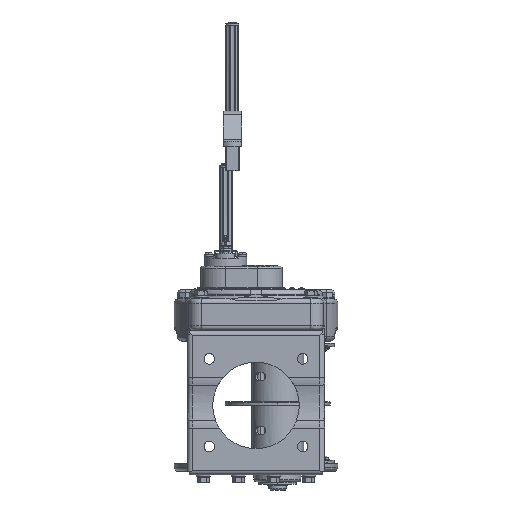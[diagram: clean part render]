
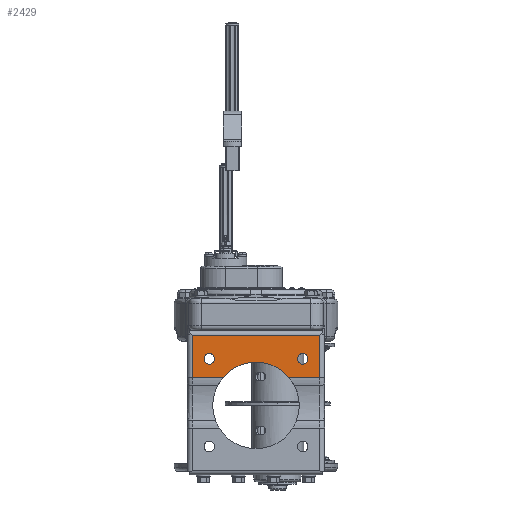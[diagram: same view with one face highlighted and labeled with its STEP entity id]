
A CAD part, front view. The second image highlights one B-rep face of the part: STEP entity #2429.
In plain terms, the highlighted planar face has unit normal (0, -1, 0).
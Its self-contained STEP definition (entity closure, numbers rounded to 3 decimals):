
#2429=ADVANCED_FACE('',(#26266,#26267,#26268),#26265,.F.);
#26265=PLANE('',#50822);
#26266=FACE_OUTER_BOUND('',#50823,.T.);
#26267=FACE_BOUND('',#50824,.T.);
#26268=FACE_BOUND('',#50825,.T.);
#50819=CARTESIAN_POINT('',(-127.722,-108.7,-182.168));
#50820=DIRECTION('',(0.,1.,0.));
#50821=DIRECTION('',(0.,0.,-1.));
#50822=AXIS2_PLACEMENT_3D('',#50819,#50820,#50821);
#50823=EDGE_LOOP('',(#70305,#70306,#70307,#70308,#70309,#70310,#70311));
#50824=EDGE_LOOP('',(#70312,#70313));
#50825=EDGE_LOOP('',(#70314,#70315));
#70305=ORIENTED_EDGE('',*,*,#81083,.T.);
#70306=ORIENTED_EDGE('',*,*,#81084,.T.);
#70307=ORIENTED_EDGE('',*,*,#81085,.T.);
#70308=ORIENTED_EDGE('',*,*,#81086,.T.);
#70309=ORIENTED_EDGE('',*,*,#78572,.T.);
#70310=ORIENTED_EDGE('',*,*,#81082,.F.);
#70311=ORIENTED_EDGE('',*,*,#78638,.F.);
#70312=ORIENTED_EDGE('',*,*,#81087,.T.);
#70313=ORIENTED_EDGE('',*,*,#81088,.T.);
#70314=ORIENTED_EDGE('',*,*,#81089,.T.);
#70315=ORIENTED_EDGE('',*,*,#81090,.T.);
#78572=EDGE_CURVE('',#110117,#110195,#110202,.T.);
#78638=EDGE_CURVE('',#110589,#110647,#110648,.T.);
#81082=EDGE_CURVE('',#110647,#110195,#126892,.T.);
#81083=EDGE_CURVE('',#110589,#126898,#126899,.T.);
#81084=EDGE_CURVE('',#126898,#126905,#126906,.T.);
#81085=EDGE_CURVE('',#126905,#126912,#126913,.T.);
#81086=EDGE_CURVE('',#126912,#110117,#126919,.T.);
#81087=EDGE_CURVE('',#126925,#126926,#126927,.T.);
#81088=EDGE_CURVE('',#126926,#126925,#126933,.T.);
#81089=EDGE_CURVE('',#126939,#126940,#126941,.T.);
#81090=EDGE_CURVE('',#126940,#126939,#126947,.T.);
#110117=VERTEX_POINT('',#154467);
#110195=VERTEX_POINT('',#154514);
#110202=LINE('',#154518,#154519);
#110589=VERTEX_POINT('',#154765);
#110647=VERTEX_POINT('',#154801);
#110648=LINE('',#154802,#154803);
#126892=LINE('',#165681,#165682);
#126898=VERTEX_POINT('',#165684);
#126899=LINE('',#165685,#165686);
#126905=VERTEX_POINT('',#165688);
#126906=CIRCLE('',#165692,74.);
#126912=VERTEX_POINT('',#165693);
#126913=CIRCLE('',#165697,74.);
#126919=LINE('',#165698,#165699);
#126925=VERTEX_POINT('',#165701);
#126926=VERTEX_POINT('',#165702);
#126927=CIRCLE('',#165706,9.);
#126933=CIRCLE('',#165710,9.);
#126939=VERTEX_POINT('',#165711);
#126940=VERTEX_POINT('',#165712);
#126941=CIRCLE('',#165716,9.);
#126947=CIRCLE('',#165720,9.);
#154467=CARTESIAN_POINT('',(-137.722,-108.7,-261.321));
#154514=CARTESIAN_POINT('',(-137.722,-108.7,-189.364));
#154518=CARTESIAN_POINT('',(-137.722,-108.7,-261.321));
#154519=VECTOR('',#154520,71.957);
#154520=DIRECTION('',(0.,0.,1.));
#154765=CARTESIAN_POINT('',(-356.722,-108.7,-261.321));
#154801=CARTESIAN_POINT('',(-356.722,-108.7,-189.364));
#154802=CARTESIAN_POINT('',(-356.722,-108.7,-261.321));
#154803=VECTOR('',#154804,71.957);
#154804=DIRECTION('',(0.,0.,1.));
#165681=CARTESIAN_POINT('',(-356.722,-108.7,-189.364));
#165682=VECTOR('',#165683,219.);
#165683=DIRECTION('',(1.,0.,0.));
#165684=CARTESIAN_POINT('',(-303.505,-108.7,-261.321));
#165685=CARTESIAN_POINT('',(-356.722,-108.7,-261.321));
#165686=VECTOR('',#165687,53.216);
#165687=DIRECTION('',(1.,0.,0.));
#165688=CARTESIAN_POINT('',(-247.222,-108.7,-235.364));
#165689=CARTESIAN_POINT('',(-247.222,-108.7,-309.364));
#165690=DIRECTION('',(0.,1.,0.));
#165691=DIRECTION('',(-0.761,0.,0.649));
#165692=AXIS2_PLACEMENT_3D('',#165689,#165690,#165691);
#165693=CARTESIAN_POINT('',(-190.938,-108.7,-261.321));
#165694=CARTESIAN_POINT('',(-247.222,-108.7,-309.364));
#165695=DIRECTION('',(0.,1.,0.));
#165696=DIRECTION('',(-0.761,0.,0.649));
#165697=AXIS2_PLACEMENT_3D('',#165694,#165695,#165696);
#165698=CARTESIAN_POINT('',(-190.938,-108.7,-261.321));
#165699=VECTOR('',#165700,53.216);
#165700=DIRECTION('',(1.,0.,0.));
#165701=CARTESIAN_POINT('',(-167.222,-108.7,-238.864));
#165702=CARTESIAN_POINT('',(-167.222,-108.7,-220.864));
#165703=CARTESIAN_POINT('',(-167.222,-108.7,-229.864));
#165704=DIRECTION('',(0.,1.,0.));
#165705=DIRECTION('',(0.,0.,-1.));
#165706=AXIS2_PLACEMENT_3D('',#165703,#165704,#165705);
#165707=CARTESIAN_POINT('',(-167.222,-108.7,-229.864));
#165708=DIRECTION('',(0.,1.,0.));
#165709=DIRECTION('',(0.,0.,-1.));
#165710=AXIS2_PLACEMENT_3D('',#165707,#165708,#165709);
#165711=CARTESIAN_POINT('',(-327.222,-108.7,-238.864));
#165712=CARTESIAN_POINT('',(-327.222,-108.7,-220.864));
#165713=CARTESIAN_POINT('',(-327.222,-108.7,-229.864));
#165714=DIRECTION('',(0.,1.,0.));
#165715=DIRECTION('',(0.,0.,-1.));
#165716=AXIS2_PLACEMENT_3D('',#165713,#165714,#165715);
#165717=CARTESIAN_POINT('',(-327.222,-108.7,-229.864));
#165718=DIRECTION('',(0.,1.,0.));
#165719=DIRECTION('',(0.,0.,-1.));
#165720=AXIS2_PLACEMENT_3D('',#165717,#165718,#165719);
